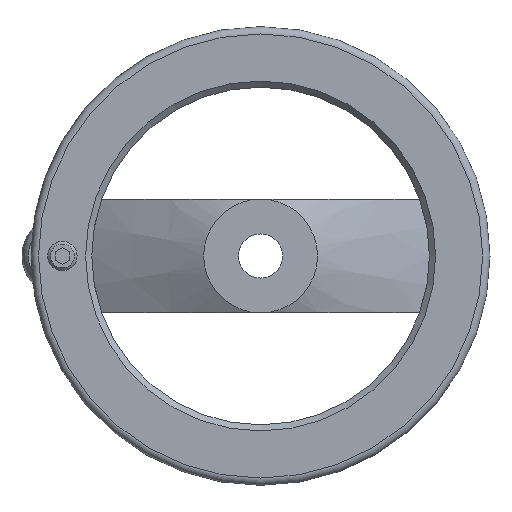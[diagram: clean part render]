
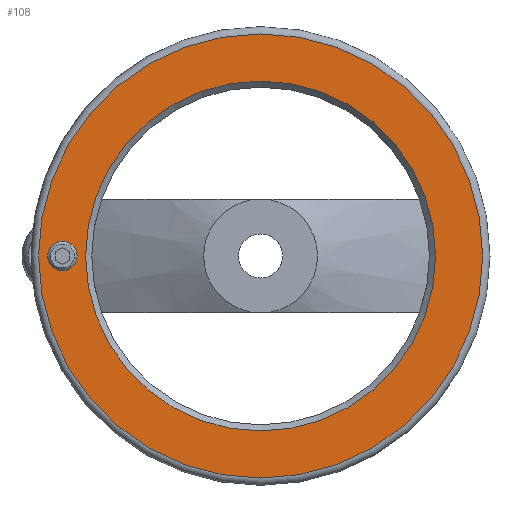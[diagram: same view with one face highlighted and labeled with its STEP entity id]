
A CAD part, left-side view. The second image highlights one B-rep face of the part: STEP entity #108.
In plain terms, the highlighted planar face has unit normal (-1, 0, 0).
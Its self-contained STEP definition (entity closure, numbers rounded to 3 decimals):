
#108 = ADVANCED_FACE( '', ( #201, #202, #203 ), #204, .T. );
#201 = FACE_OUTER_BOUND( '', #304, .T. );
#202 = FACE_BOUND( '', #305, .T. );
#203 = FACE_BOUND( '', #306, .T. );
#204 = PLANE( '', #307 );
#304 = EDGE_LOOP( '', ( #535 ) );
#305 = EDGE_LOOP( '', ( #536 ) );
#306 = EDGE_LOOP( '', ( #537 ) );
#307 = AXIS2_PLACEMENT_3D( '', #538, #539, #540 );
#535 = ORIENTED_EDGE( '', *, *, #641, .T. );
#536 = ORIENTED_EDGE( '', *, *, #605, .T. );
#537 = ORIENTED_EDGE( '', *, *, #642, .F. );
#538 = CARTESIAN_POINT( '', ( 18., -47.667, 0. ) );
#539 = DIRECTION( '', ( -1., 0., 0. ) );
#540 = DIRECTION( '', ( 0., 0., 1. ) );
#605 = EDGE_CURVE( '', #712, #712, #713, .T. );
#641 = EDGE_CURVE( '', #768, #768, #769, .T. );
#642 = EDGE_CURVE( '', #770, #770, #771, .T. );
#712 = VERTEX_POINT( '', #975 );
#713 = CIRCLE( '', #976, 4. );
#768 = VERTEX_POINT( '', #1043 );
#769 = CIRCLE( '', #1044, 60.5 );
#770 = VERTEX_POINT( '', #1045 );
#771 = CIRCLE( '', #1046, 47.667 );
#975 = CARTESIAN_POINT( '', ( 18., 54., -4. ) );
#976 = AXIS2_PLACEMENT_3D( '', #1089, #1090, #1091 );
#1043 = CARTESIAN_POINT( '', ( 18., 0., 60.5 ) );
#1044 = AXIS2_PLACEMENT_3D( '', #1170, #1171, #1172 );
#1045 = CARTESIAN_POINT( '', ( 18., 0., 47.667 ) );
#1046 = AXIS2_PLACEMENT_3D( '', #1173, #1174, #1175 );
#1089 = CARTESIAN_POINT( '', ( 18., 54., 0. ) );
#1090 = DIRECTION( '', ( 1., 0., 0. ) );
#1091 = DIRECTION( '', ( 0., 0., -1. ) );
#1170 = CARTESIAN_POINT( '', ( 18., 0., 0. ) );
#1171 = DIRECTION( '', ( -1., 0., 0. ) );
#1172 = DIRECTION( '', ( 0., 0., 1. ) );
#1173 = CARTESIAN_POINT( '', ( 18., 0., 0. ) );
#1174 = DIRECTION( '', ( -1., 0., 0. ) );
#1175 = DIRECTION( '', ( 0., 0., 1. ) );
